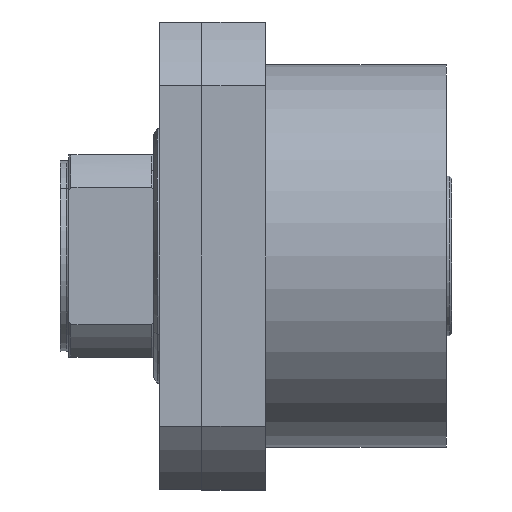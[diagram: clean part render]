
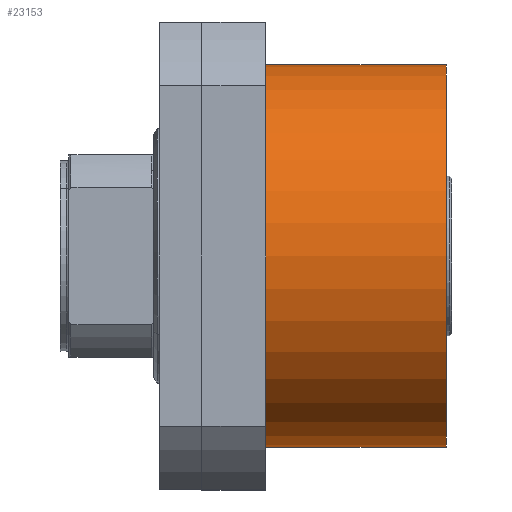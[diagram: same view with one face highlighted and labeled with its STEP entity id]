
A CAD part, left-side view. The second image highlights one B-rep face of the part: STEP entity #23153.
In plain terms, the highlighted cylindrical face has radius 18 mm (diameter 36 mm), a partial arc.
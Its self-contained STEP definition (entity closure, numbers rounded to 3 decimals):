
#633 = VERTEX_POINT ( 'NONE', #6439 ) ;
#1461 = VERTEX_POINT ( 'NONE', #8517 ) ;
#2023 = CARTESIAN_POINT ( 'NONE',  ( 0., 0., 23. ) ) ;
#2397 = ORIENTED_EDGE ( 'NONE', *, *, #22465, .T. ) ;
#3443 = DIRECTION ( 'NONE',  ( 0., 0., -1. ) ) ;
#3483 = VECTOR ( 'NONE', #18742, 1000. ) ;
#3764 = ORIENTED_EDGE ( 'NONE', *, *, #8649, .F. ) ;
#4127 = EDGE_CURVE ( 'NONE', #1461, #17216, #13021, .T. ) ;
#6439 = CARTESIAN_POINT ( 'NONE',  ( -18., 0., 23. ) ) ;
#7299 = DIRECTION ( 'NONE',  ( -1., 0., 0. ) ) ;
#7845 = CARTESIAN_POINT ( 'NONE',  ( 18., 0., 23. ) ) ;
#8405 = ORIENTED_EDGE ( 'NONE', *, *, #18700, .F. ) ;
#8517 = CARTESIAN_POINT ( 'NONE',  ( -18., 0., 6. ) ) ;
#8649 = EDGE_CURVE ( 'NONE', #633, #12917, #10513, .T. ) ;
#8719 = EDGE_LOOP ( 'NONE', ( #8405, #3764, #2397, #12186 ) ) ;
#8770 = DIRECTION ( 'NONE',  ( 0., 0., 1. ) ) ;
#8856 = LINE ( 'NONE', #16020, #20026 ) ;
#8885 = DIRECTION ( 'NONE',  ( 1., 0., 0. ) ) ;
#8950 = FACE_OUTER_BOUND ( 'NONE', #8719, .T. ) ;
#9106 = CARTESIAN_POINT ( 'NONE',  ( 0., 0., 23. ) ) ;
#9130 = CARTESIAN_POINT ( 'NONE',  ( 0., 0., 6. ) ) ;
#9762 = AXIS2_PLACEMENT_3D ( 'NONE', #9106, #8770, #8885 ) ;
#9948 = AXIS2_PLACEMENT_3D ( 'NONE', #2023, #3443, #7299 ) ;
#10513 = CIRCLE ( 'NONE', #9762, 18. ) ;
#10546 = DIRECTION ( 'NONE',  ( 0., 0., 1. ) ) ;
#12186 = ORIENTED_EDGE ( 'NONE', *, *, #4127, .T. ) ;
#12917 = VERTEX_POINT ( 'NONE', #21916 ) ;
#13021 = CIRCLE ( 'NONE', #14157, 18. ) ;
#14157 = AXIS2_PLACEMENT_3D ( 'NONE', #9130, #10546, #17702 ) ;
#16020 = CARTESIAN_POINT ( 'NONE',  ( -18., 0., 23. ) ) ;
#17216 = VERTEX_POINT ( 'NONE', #21000 ) ;
#17702 = DIRECTION ( 'NONE',  ( 1., 0., 0. ) ) ;
#17859 = CYLINDRICAL_SURFACE ( 'NONE', #9948, 18. ) ;
#17893 = DIRECTION ( 'NONE',  ( 0., 0., -1. ) ) ;
#18700 = EDGE_CURVE ( 'NONE', #12917, #17216, #20610, .T. ) ;
#18742 = DIRECTION ( 'NONE',  ( 0., 0., -1. ) ) ;
#20026 = VECTOR ( 'NONE', #17893, 1000. ) ;
#20610 = LINE ( 'NONE', #7845, #3483 ) ;
#21000 = CARTESIAN_POINT ( 'NONE',  ( 18., 0., 6. ) ) ;
#21916 = CARTESIAN_POINT ( 'NONE',  ( 18., 0., 23. ) ) ;
#22465 = EDGE_CURVE ( 'NONE', #633, #1461, #8856, .T. ) ;
#23153 = ADVANCED_FACE ( 'NONE', ( #8950 ), #17859, .T. ) ;
